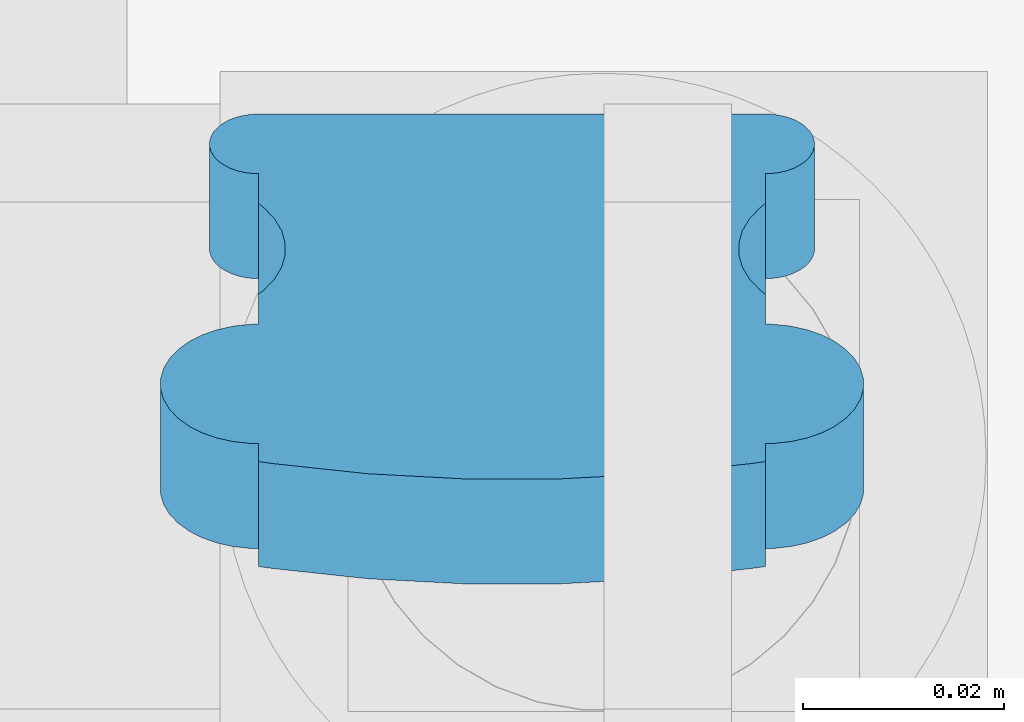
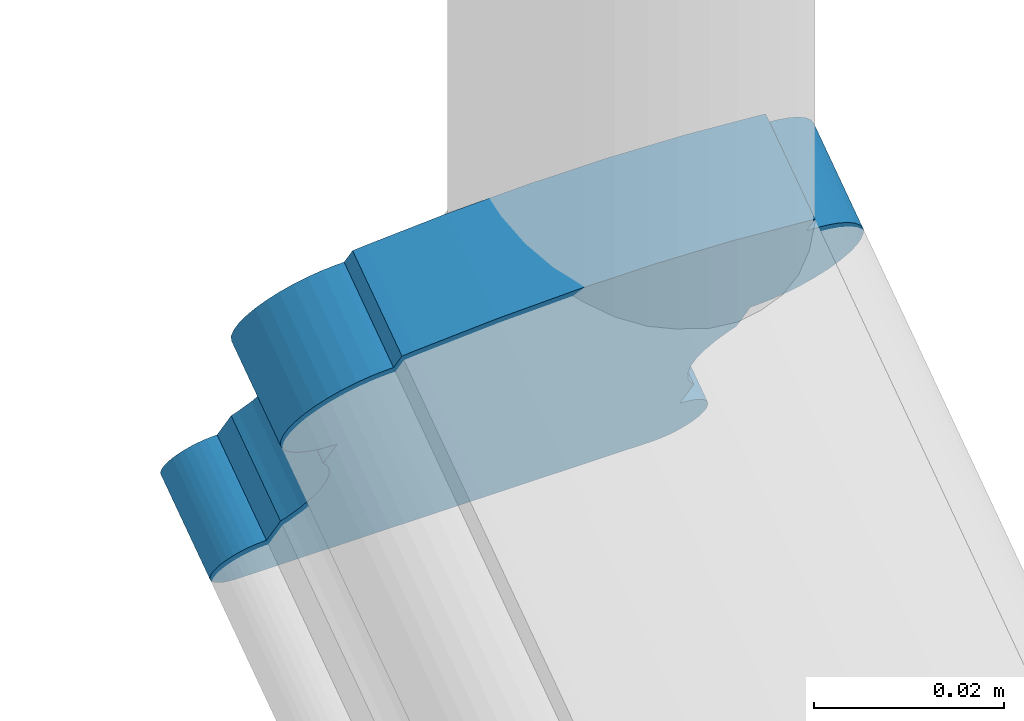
# One storey, part 22 of 77: 1 building element part, 1 element without a shape of its own.
"""IFC2X3 building model written with IfcOpenShell, lengths in inches."""

from ifc_helpers import new_model, entity, si_unit, converted_unit, derived_unit, money_unit, direction, frame, origin_with_axes, place, context, subcontext, project, spatial, faceted_brep, material, type_object, element, aggregate, save


model = new_model("IFC2X3")

# Units and contexts
model_context = context("Model", 3, precision=0.000393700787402, world=origin_with_axes(), true_north=direction((0.0, 1.0)))
body_context = subcontext(model_context, "Body", "Model", "MODEL_VIEW")
ifc_project = project(units=[converted_unit("LENGTHUNIT", "INCH", entity("IfcPositiveLengthMeasure", 0.0254), si_unit("LENGTHUNIT", "METRE"), dimensions=[1, 0, 0, 0, 0, 0, 0]), converted_unit("AREAUNIT", "SQUARE_FOOT", entity("IfcPositiveLengthMeasure", 0.09290304), si_unit("AREAUNIT", "SQUARE_METRE"), dimensions=[2, 0, 0, 0, 0, 0, 0]), si_unit("PLANEANGLEUNIT", "RADIAN"), si_unit("SOLIDANGLEUNIT", "STERADIAN"), money_unit("USD"), converted_unit("TIMEUNIT", "Year", entity("IfcTimeMeasure", 31556926.0), si_unit("TIMEUNIT", "SECOND"), dimensions=[0, 0, 1, 0, 0, 0, 0]), si_unit("MASSUNIT", "GRAM", prefix="KILO"), si_unit("THERMODYNAMICTEMPERATUREUNIT", "DEGREE_CELSIUS"), si_unit("LUMINOUSINTENSITYUNIT", "LUMEN"), si_unit("ENERGYUNIT", "JOULE", prefix="MEGA"), derived_unit("THERMALCONDUCTANCEUNIT", [(si_unit("POWERUNIT", "WATT"), 1), (si_unit("LENGTHUNIT", "METRE"), -1), (si_unit("THERMODYNAMICTEMPERATUREUNIT", "KELVIN"), -1)]), derived_unit("SPECIFICHEATCAPACITYUNIT", [(si_unit("ENERGYUNIT", "JOULE"), 1), (si_unit("MASSUNIT", "GRAM", prefix="KILO"), -1), (si_unit("THERMODYNAMICTEMPERATUREUNIT", "KELVIN"), -1)]), derived_unit("MASSDENSITYUNIT", [(si_unit("MASSUNIT", "GRAM", prefix="KILO"), 1), (si_unit("VOLUMEUNIT", "CUBIC_METRE"), -1)])], contexts=[model_context])

# Site, building, storey
site_placement = place(None, origin_with_axes())
site = spatial("IfcSite", under=ifc_project, at=site_placement, Name="Site", CompositionType="ELEMENT")
building_placement = place(site_placement, origin_with_axes())
building = spatial("IfcBuilding", under=site, at=building_placement, Name="Building", CompositionType="ELEMENT")
storey_placement = place(building_placement, frame((0.0, 0.0, 127.952755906), z_axis=(0.0, 0.0, 1.0), x_axis=(1.0, 0.0, 0.0)))
storey = spatial("IfcBuildingStorey", under=building, at=storey_placement, Name="Second Floor", CompositionType="ELEMENT", Elevation=127.953)

# Railing, building element part
railing_type = type_object("IfcRailingType", Name="Railing Type", PredefinedType="NOTDEFINED")
railing_placement = place(storey_placement, frame((682.459998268, 144.881628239, -56.1089279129), z_axis=(0.0, 0.0, 1.0), x_axis=(-1.0, 0.0, 0.0)))
railing = element("IfcRailing", 1, at=railing_placement, inside=storey, type_object=railing_type, Name="RAILING - 001", PredefinedType="NOTDEFINED")
ifc_material = material(Name="Wood - Structural")
building_element_part_placement = place(railing_placement, origin_with_axes())
building_element_part = element("IfcBuildingElementPart", 2, at=building_element_part_placement, material=ifc_material, Name="Wood - Structural", context=body_context, shape_type="Brep", body=[
    faceted_brep([(-2.95870018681, 0.439994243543, 89.6653057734), (-2.95870018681, 0.369904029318, 89.5646555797), (-2.95870018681, -0.0404096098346, 89.8503874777), (-2.95870018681, 0.02968060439, 89.9510376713), (-2.90015196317, 0.448135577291, 89.6769968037), (-2.53034410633, 0.487726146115, 89.7338492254), (-2.15626030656, 0.507597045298, 89.7623840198), (-1.78074756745, 0.507597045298, 89.7623840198), (-1.40666376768, 0.487726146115, 89.7338492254), (-1.03685591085, 0.448135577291, 89.6769968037), (-0.97830768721, 0.439994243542, 89.6653057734), (-0.97830768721, 0.369904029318, 89.5646555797), (-0.944769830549, 0.369014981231, 89.5633788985), (-0.878713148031, 0.361943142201, 89.5532236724), (-0.815682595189, 0.348014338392, 89.5332217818), (-0.757593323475, 0.327651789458, 89.5039809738), (-0.706210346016, 0.301474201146, 89.4663897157), (-0.663094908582, 0.270276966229, 89.4215901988), (-0.629557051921, 0.235007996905, 89.3709436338), (-0.606615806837, 0.196738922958, 89.3159888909), (-0.594968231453, 0.156632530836, 89.2583957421), (-0.594968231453, 0.115907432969, 89.1999141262), (-0.606615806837, 0.0758010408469, 89.1423209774), (-0.629557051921, 0.0375319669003, 89.0873662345), (-0.663094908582, 0.00226299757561, 89.0367196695), (-0.706210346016, -0.0289342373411, 88.9919201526), (-0.757593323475, -0.0551118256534, 88.9543288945), (-0.815682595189, -0.0754743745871, 88.9250880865), (-0.878713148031, -0.0894031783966, 88.9050861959), (-0.944769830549, -0.0964750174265, 88.8949309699), (-0.97830768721, -0.097364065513, 88.8936542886), (-0.97830768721, -0.214181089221, 88.7259039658), (-1.00088455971, -0.232151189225, 88.7000987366), (-1.04067773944, -0.273998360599, 88.6400058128), (-1.06789787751, -0.319405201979, 88.5748011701), (-1.08171790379, -0.366992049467, 88.5064660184), (-1.08171790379, -0.415313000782, 88.437076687), (-1.06789787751, -0.46289984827, 88.3687415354), (-1.04067773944, -0.50830668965, 88.3035368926), (-1.00088455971, -0.550153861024, 88.2434439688), (-0.97830768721, -0.568123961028, 88.2176387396), (-0.97830768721, -0.684940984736, 88.0498884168), (-0.96153875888, -0.685385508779, 88.0492500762), (-0.928510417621, -0.688921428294, 88.0441724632), (-0.896995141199, -0.695885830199, 88.0341715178), (-0.867950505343, -0.706067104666, 88.0195511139), (-0.842259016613, -0.719155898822, 88.0007554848), (-0.820701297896, -0.73475451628, 87.9783557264), (-0.803932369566, -0.752389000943, 87.9530324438), (-0.792461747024, -0.771523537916, 87.9255550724), (-0.786637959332, -0.791576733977, 87.896758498), (-0.786637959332, -0.811939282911, 87.8675176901), (-0.792461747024, -0.831992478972, 87.8387211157), (-0.803932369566, -0.851127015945, 87.8112437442), (-0.820701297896, -0.868761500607, 87.7859204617), (-0.842259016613, -0.884360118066, 87.7635207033), (-0.867950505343, -0.897448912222, 87.7447250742), (-0.896995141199, -0.907630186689, 87.7301046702), (-0.928510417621, -0.914594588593, 87.7201037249), (-0.96153875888, -0.918130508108, 87.7150261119), (-0.97830768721, -0.918575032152, 87.7143877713), (-2.95870018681, -0.918575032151, 87.7143877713), (-2.97546911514, -0.918130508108, 87.7150261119), (-3.0084974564, -0.914594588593, 87.7201037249), (-3.04001273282, -0.907630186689, 87.7301046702), (-3.06905736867, -0.897448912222, 87.7447250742), (-3.0947488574, -0.884360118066, 87.7635207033), (-3.11630657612, -0.868761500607, 87.7859204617), (-3.13307550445, -0.851127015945, 87.8112437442), (-3.14454612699, -0.831992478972, 87.8387211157), (-3.15036991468, -0.811939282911, 87.8675176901), (-3.15036991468, -0.791576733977, 87.896758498), (-3.14454612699, -0.771523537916, 87.9255550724), (-3.13307550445, -0.752389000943, 87.9530324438), (-3.11630657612, -0.73475451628, 87.9783557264), (-3.0947488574, -0.719155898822, 88.0007554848), (-3.06905736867, -0.706067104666, 88.0195511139), (-3.04001273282, -0.695885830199, 88.0341715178), (-3.0084974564, -0.688921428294, 88.0441724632), (-2.97546911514, -0.685385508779, 88.0492500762), (-2.95870018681, -0.684940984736, 88.0498884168), (-2.95870018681, -0.568123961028, 88.2176387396), (-2.93612331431, -0.550153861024, 88.2434439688), (-2.89633013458, -0.50830668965, 88.3035368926), (-2.86910999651, -0.46289984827, 88.3687415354), (-2.85528997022, -0.415313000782, 88.437076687), (-2.85528997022, -0.366992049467, 88.5064660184), (-2.86910999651, -0.319405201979, 88.5748011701), (-2.89633013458, -0.273998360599, 88.6400058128), (-2.93612331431, -0.232151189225, 88.7000987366), (-2.95870018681, -0.214181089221, 88.7259039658), (-2.95870018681, -0.097364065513, 88.8936542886), (-2.99223804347, -0.0964750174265, 88.8949309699), (-3.05829472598, -0.0894031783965, 88.9050861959), (-3.12132527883, -0.075474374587, 88.9250880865), (-3.17941455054, -0.0551118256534, 88.9543288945), (-3.230797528, -0.028934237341, 88.9919201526), (-3.27391296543, 0.00226299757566, 89.0367196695), (-3.30745082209, 0.0375319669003, 89.0873662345), (-3.33039206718, 0.075801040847, 89.1423209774), (-3.34203964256, 0.115907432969, 89.1999141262), (-3.34203964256, 0.156632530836, 89.2583957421), (-3.33039206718, 0.196738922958, 89.3159888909), (-3.30745082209, 0.235007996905, 89.3709436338), (-3.27391296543, 0.270276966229, 89.4215901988), (-3.230797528, 0.301474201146, 89.4663897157), (-3.17941455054, 0.327651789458, 89.5039809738), (-3.12132527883, 0.348014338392, 89.5332217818), (-3.05829472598, 0.361943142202, 89.5532236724), (-2.99223804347, 0.369014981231, 89.5633788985), (-2.99223804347, -0.0412986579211, 89.8491107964), (-3.05829472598, -0.0483704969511, 89.8389555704), (-3.12132527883, -0.0622993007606, 89.8189536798), (-3.17941455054, -0.0826618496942, 89.7897128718), (-3.230797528, -0.108839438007, 89.7521216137), (-3.27391296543, -0.140036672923, 89.7073220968), (-3.30745082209, -0.175305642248, 89.6566755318), (-3.33039206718, -0.213574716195, 89.6017207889), (-3.34203964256, -0.253681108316, 89.5441276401), (-3.34203964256, -0.294406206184, 89.4856460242), (-3.33039206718, -0.334512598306, 89.4280528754), (-3.30745082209, -0.372781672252, 89.3730981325), (-3.27391296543, -0.408050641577, 89.3224515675), (-3.230797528, -0.439247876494, 89.2776520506), (-3.17941455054, -0.465425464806, 89.2400607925), (-3.12132527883, -0.48578801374, 89.2108199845), (-3.05829472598, -0.499716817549, 89.1908180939), (-2.99223804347, -0.506788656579, 89.1806628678), (-2.95870018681, -0.507677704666, 89.1793861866), (-2.95870018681, -0.624494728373, 89.0116358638), (-2.93612331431, -0.642464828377, 88.9858306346), (-2.89633013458, -0.684311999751, 88.9257377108), (-2.86910999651, -0.729718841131, 88.860533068), (-2.85528997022, -0.777305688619, 88.7921979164), (-2.85528997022, -0.825626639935, 88.722808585), (-2.86910999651, -0.873213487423, 88.6544734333), (-2.89633013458, -0.918620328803, 88.5892687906), (-2.93612331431, -0.960467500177, 88.5291758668), (-2.95870018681, -0.978437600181, 88.5033706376), (-2.95870018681, -1.09525462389, 88.3356203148), (-2.97546911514, -1.09569914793, 88.3349819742), (-3.0084974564, -1.09923506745, 88.3299043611), (-3.04001273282, -1.10619946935, 88.3199034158), (-3.06905736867, -1.11638074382, 88.3052830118), (-3.0947488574, -1.12946953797, 88.2864873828), (-3.11630657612, -1.14506815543, 88.2640876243), (-3.13307550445, -1.1627026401, 88.2387643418), (-3.14454612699, -1.18183717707, 88.2112869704), (-3.15036991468, -1.20189037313, 88.182490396), (-3.15036991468, -1.22225292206, 88.153249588), (-3.14454612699, -1.24230611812, 88.1244530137), (-3.13307550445, -1.2614406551, 88.0969756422), (-3.11630657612, -1.27907513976, 88.0716523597), (-3.0947488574, -1.29467375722, 88.0492526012), (-3.06905736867, -1.30776255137, 88.0304569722), (-3.04001273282, -1.31794382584, 88.0158365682), (-3.0084974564, -1.32490822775, 88.0058356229), (-2.97546911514, -1.32844414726, 88.0007580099), (-2.95870018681, -1.3288886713, 88.0001196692), (-0.97830768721, -1.3288886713, 88.0001196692), (-0.96153875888, -1.32844414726, 88.0007580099), (-0.928510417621, -1.32490822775, 88.0058356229), (-0.896995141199, -1.31794382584, 88.0158365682), (-0.867950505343, -1.30776255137, 88.0304569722), (-0.842259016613, -1.29467375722, 88.0492526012), (-0.820701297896, -1.27907513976, 88.0716523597), (-0.803932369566, -1.2614406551, 88.0969756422), (-0.792461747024, -1.24230611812, 88.1244530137), (-0.786637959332, -1.22225292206, 88.153249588), (-0.786637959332, -1.20189037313, 88.182490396), (-0.792461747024, -1.18183717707, 88.2112869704), (-0.803932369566, -1.1627026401, 88.2387643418), (-0.820701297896, -1.14506815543, 88.2640876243), (-0.842259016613, -1.12946953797, 88.2864873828), (-0.867950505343, -1.11638074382, 88.3052830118), (-0.896995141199, -1.10619946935, 88.3199034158), (-0.928510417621, -1.09923506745, 88.3299043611), (-0.96153875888, -1.09569914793, 88.3349819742), (-0.97830768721, -1.09525462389, 88.3356203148), (-0.97830768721, -0.978437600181, 88.5033706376), (-1.00088455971, -0.960467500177, 88.5291758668), (-1.04067773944, -0.918620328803, 88.5892687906), (-1.06789787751, -0.873213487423, 88.6544734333), (-1.08171790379, -0.825626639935, 88.722808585), (-1.08171790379, -0.777305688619, 88.7921979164), (-1.06789787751, -0.729718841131, 88.860533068), (-1.04067773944, -0.684311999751, 88.9257377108), (-1.00088455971, -0.642464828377, 88.9858306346), (-0.97830768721, -0.624494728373, 89.0116358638), (-0.97830768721, -0.507677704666, 89.1793861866), (-0.944769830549, -0.506788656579, 89.1806628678), (-0.878713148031, -0.499716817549, 89.1908180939), (-0.815682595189, -0.48578801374, 89.2108199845), (-0.757593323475, -0.465425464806, 89.2400607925), (-0.706210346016, -0.439247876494, 89.2776520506), (-0.663094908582, -0.408050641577, 89.3224515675), (-0.629557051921, -0.372781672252, 89.3730981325), (-0.606615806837, -0.334512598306, 89.4280528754), (-0.594968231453, -0.294406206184, 89.4856460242), (-0.594968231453, -0.253681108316, 89.5441276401), (-0.606615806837, -0.213574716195, 89.6017207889), (-0.629557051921, -0.175305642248, 89.6566755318), (-0.663094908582, -0.140036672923, 89.7073220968), (-0.706210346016, -0.108839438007, 89.7521216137), (-0.757593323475, -0.0826618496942, 89.7897128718), (-0.815682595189, -0.0622993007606, 89.8189536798), (-0.878713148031, -0.0483704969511, 89.8389555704), (-0.944769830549, -0.0412986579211, 89.8491107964), (-0.97830768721, -0.0404096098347, 89.8503874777), (-0.97830768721, 0.02968060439, 89.9510376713), (-1.03685591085, 0.0378219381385, 89.9627287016), (-1.40666376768, 0.0774125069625, 90.0195811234), (-1.78074756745, 0.0972834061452, 90.0481159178), (-2.15626030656, 0.0972834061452, 90.0481159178), (-2.53034410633, 0.0774125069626, 90.0195811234), (-2.90015196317, 0.0378219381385, 89.9627287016)], [[[0, 1, 2, 3]], [[0, 4, 5, 6, 7, 8, 9, 10, 11, 12, 13, 14, 15, 16, 17, 18, 19, 20, 21, 22, 23, 24, 25, 26, 27, 28, 29, 30, 31, 32, 33, 34, 35, 36, 37, 38, 39, 40, 41, 42, 43, 44, 45, 46, 47, 48, 49, 50, 51, 52, 53, 54, 55, 56, 57, 58, 59, 60, 61, 62, 63, 64, 65, 66, 67, 68, 69, 70, 71, 72, 73, 74, 75, 76, 77, 78, 79, 80, 81, 82, 83, 84, 85, 86, 87, 88, 89, 90, 91, 92, 93, 94, 95, 96, 97, 98, 99, 100, 101, 102, 103, 104, 105, 106, 107, 108, 109, 1]], [[1, 109, 110, 2]], [[3, 2, 110, 111, 112, 113, 114, 115, 116, 117, 118, 119, 120, 121, 122, 123, 124, 125, 126, 127, 128, 129, 130, 131, 132, 133, 134, 135, 136, 137, 138, 139, 140, 141, 142, 143, 144, 145, 146, 147, 148, 149, 150, 151, 152, 153, 154, 155, 156, 157, 158, 159, 160, 161, 162, 163, 164, 165, 166, 167, 168, 169, 170, 171, 172, 173, 174, 175, 176, 177, 178, 179, 180, 181, 182, 183, 184, 185, 186, 187, 188, 189, 190, 191, 192, 193, 194, 195, 196, 197, 198, 199, 200, 201, 202, 203, 204, 205, 206, 207, 208, 209, 210, 211, 212, 213, 214, 215]], [[4, 0, 3, 215]], [[5, 4, 215, 214]], [[6, 5, 214, 213]], [[7, 6, 213, 212]], [[8, 7, 212, 211]], [[9, 8, 211, 210]], [[10, 9, 210, 209]], [[11, 10, 209, 208]], [[12, 11, 208, 207]], [[13, 12, 207, 206]], [[14, 13, 206, 205]], [[15, 14, 205, 204]], [[16, 15, 204, 203]], [[17, 16, 203, 202]], [[18, 17, 202, 201]], [[19, 18, 201, 200]], [[20, 19, 200, 199]], [[21, 20, 199, 198]], [[22, 21, 198, 197]], [[23, 22, 197, 196]], [[24, 23, 196, 195]], [[25, 24, 195, 194]], [[26, 25, 194, 193]], [[27, 26, 193, 192]], [[28, 27, 192, 191]], [[29, 28, 191, 190]], [[30, 29, 190, 189]], [[31, 30, 189, 188]], [[32, 31, 188, 187]], [[33, 32, 187, 186]], [[34, 33, 186, 185]], [[35, 34, 185, 184]], [[36, 35, 184, 183]], [[37, 36, 183, 182]], [[38, 37, 182, 181]], [[39, 38, 181, 180]], [[40, 39, 180, 179]], [[41, 40, 179, 178]], [[42, 41, 178, 177]], [[43, 42, 177, 176]], [[44, 43, 176, 175]], [[45, 44, 175, 174]], [[46, 45, 174, 173]], [[47, 46, 173, 172]], [[48, 47, 172, 171]], [[49, 48, 171, 170]], [[50, 49, 170, 169]], [[51, 50, 169, 168]], [[52, 51, 168, 167]], [[53, 52, 167, 166]], [[54, 53, 166, 165]], [[55, 54, 165, 164]], [[56, 55, 164, 163]], [[57, 56, 163, 162]], [[58, 57, 162, 161]], [[59, 58, 161, 160]], [[60, 59, 160, 159]], [[61, 60, 159, 158]], [[62, 61, 158, 157]], [[63, 62, 157, 156]], [[64, 63, 156, 155]], [[65, 64, 155, 154]], [[66, 65, 154, 153]], [[67, 66, 153, 152]], [[68, 67, 152, 151]], [[69, 68, 151, 150]], [[70, 69, 150, 149]], [[71, 70, 149, 148]], [[72, 71, 148, 147]], [[73, 72, 147, 146]], [[74, 73, 146, 145]], [[75, 74, 145, 144]], [[76, 75, 144, 143]], [[77, 76, 143, 142]], [[78, 77, 142, 141]], [[79, 78, 141, 140]], [[80, 79, 140, 139]], [[81, 80, 139, 138]], [[82, 81, 138, 137]], [[83, 82, 137, 136]], [[84, 83, 136, 135]], [[85, 84, 135, 134]], [[86, 85, 134, 133]], [[87, 86, 133, 132]], [[88, 87, 132, 131]], [[89, 88, 131, 130]], [[90, 89, 130, 129]], [[91, 90, 129, 128]], [[92, 91, 128, 127]], [[93, 92, 127, 126]], [[94, 93, 126, 125]], [[95, 94, 125, 124]], [[96, 95, 124, 123]], [[97, 96, 123, 122]], [[98, 97, 122, 121]], [[99, 98, 121, 120]], [[100, 99, 120, 119]], [[101, 100, 119, 118]], [[102, 101, 118, 117]], [[103, 102, 117, 116]], [[104, 103, 116, 115]], [[105, 104, 115, 114]], [[106, 105, 114, 113]], [[107, 106, 113, 112]], [[108, 107, 112, 111]], [[109, 108, 111, 110]]]),
])
aggregate(railing, [building_element_part])

save(model, "model.ifc")
